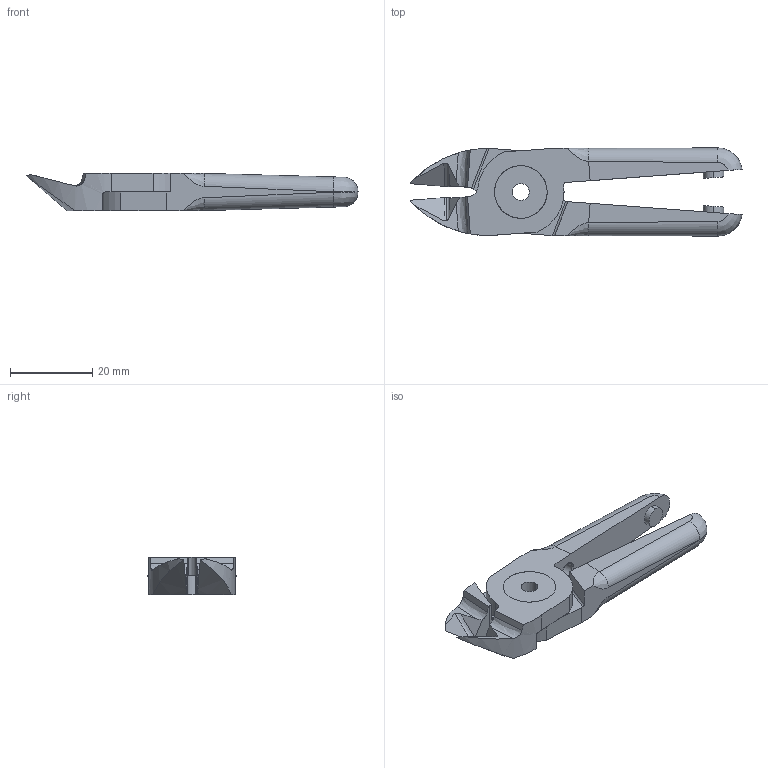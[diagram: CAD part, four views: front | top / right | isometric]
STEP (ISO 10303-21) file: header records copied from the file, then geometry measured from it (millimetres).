
FILE_DESCRIPTION (( 'STEP AP214' ), '1' );
FILE_NAME ('N7PF.STEP', '2019-11-29T08:14:46', ( '微软用户' ), ( '微软中国' ), 'SwSTEP 2.0', 'SolidWorks 2016', '' );
FILE_SCHEMA (( 'AUTOMOTIVE_DESIGN' ));
Length unit declared in the file: millimetre
Products named in the file (4): BR2; BR1; BS; N7PF
Assembly tree (3 placements, depth 2):
  N7PF
    BS
    BR1
    BR2
Bounding box: 80.67 x 21.43 x 9 mm (x, y, z)
Volume: 8780 mm3; surface area: 6075.2 mm2
Topology: 3 solids, 3 shells, 115 faces, 307 edges, 192 vertices
Faces by surface type: plane 44, bspline 28, cylinder 25, cone 18
Entity records: 4867 total; most frequent: CARTESIAN_POINT 2183, ORIENTED_EDGE 594, DIRECTION 445, EDGE_CURVE 297, VERTEX_POINT 192, AXIS2_PLACEMENT_3D 152, LINE 141, VECTOR 141
